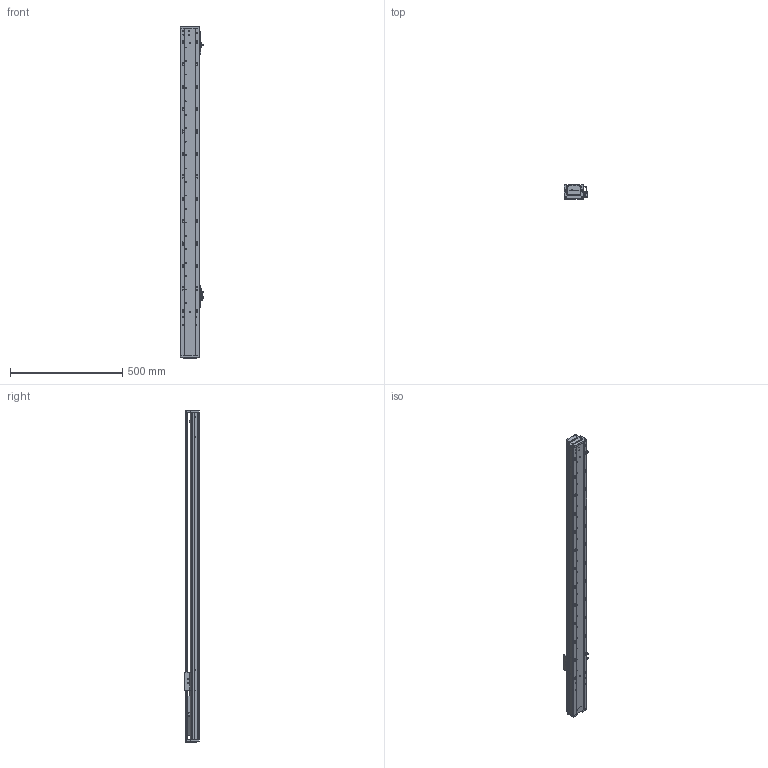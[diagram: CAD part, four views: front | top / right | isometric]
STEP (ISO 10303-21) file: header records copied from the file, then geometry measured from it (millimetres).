
FILE_DESCRIPTION (( 'STEP AP203' ), '1' );
FILE_NAME ('RY80-L1620-950-IK.SLDASM_1100.step', '2021-02-22T05:32:57', ( '盈信电脑' ), ( '东莞市道滘镇水果街19号' ), 'SwSTEP 2.0', 'SolidWorks 2012', '' );
FILE_SCHEMA (( 'CONFIG_CONTROL_DESIGN' ));
Length unit declared in the file: millimetre
Products named in the file (14): RY80-L1620-950-IK.SLDASM_1100; 滅袉蝶18-24; 侂狟100W; RY80囀离ヶ啣; RY80囀离萇儂啣; 覜茼ん672; 672嫖萇羲壽假蚾釱; 滅袉蝶18-10; RY80俋离覜茼え; RY80綴裔啣; RY80萇儂傷盓傅釱; RY80-950倰第奻裔啣-IK_1100; RY80-950倰第菁釱-IK_1100; RY80臏賑輸
Assembly tree (16 placements, depth 2):
  RY80-L1620-950-IK.SLDASM_1100
    RY80-950倰第菁釱-IK_1100
    RY80臏賑輸
    RY80-950倰第奻裔啣-IK_1100
    RY80萇儂傷盓傅釱
    RY80綴裔啣
    滅袉蝶18-10
    672嫖萇羲壽假蚾釱  x2
    覜茼ん672  x3
    RY80俋离覜茼え
    侂狟100W
    RY80囀离萇儂啣
    RY80囀离ヶ啣
    滅袉蝶18-24
Bounding box: 103.7 x 65 x 1481 mm (x, y, z)
Volume: 2327310.7 mm3; surface area: 998760.7 mm2
Topology: 16 solids, 16 shells, 2325 faces, 6520 edges, 4255 vertices
Faces by surface type: plane 1322, cylinder 859, cone 100, bspline 44
Entity records: 76369 total; most frequent: CARTESIAN_POINT 20833, ORIENTED_EDGE 11760, DIRECTION 10383, EDGE_CURVE 5880, VERTEX_POINT 3871, LINE 3657, VECTOR 3657, AXIS2_PLACEMENT_3D 3363
